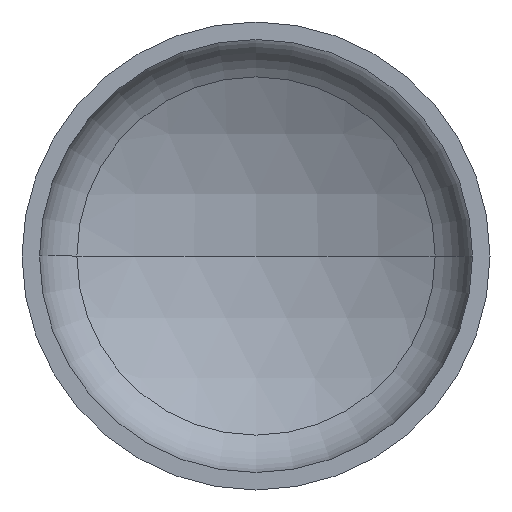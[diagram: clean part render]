
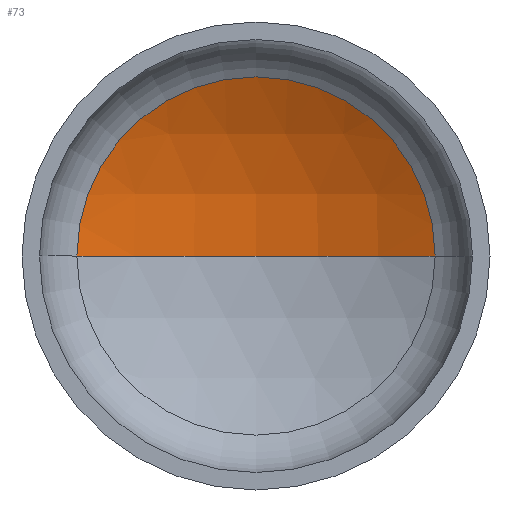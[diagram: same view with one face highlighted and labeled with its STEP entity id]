
A CAD part, front view. The second image highlights one B-rep face of the part: STEP entity #73.
In plain terms, the highlighted spherical face has radius 1200 mm.
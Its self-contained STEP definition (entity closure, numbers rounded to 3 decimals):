
#9 = CARTESIAN_POINT ( 'NONE',  ( 0., 468.176, 0. ) ) ;
#19 = EDGE_LOOP ( 'NONE', ( #125, #148, #103 ) ) ;
#33 = AXIS2_PLACEMENT_3D ( 'NONE', #250, #248, #173 ) ;
#38 = AXIS2_PLACEMENT_3D ( 'NONE', #208, #225, #222 ) ;
#42 = AXIS2_PLACEMENT_3D ( 'NONE', #262, #280, #276 ) ;
#60 = AXIS2_PLACEMENT_3D ( 'NONE', #288, #233, #240 ) ;
#68 = SPHERICAL_SURFACE ( 'NONE', #60, 1200. ) ;
#73 = ADVANCED_FACE ( 'NONE', ( #195 ), #68, .F. ) ;
#86 = VERTEX_POINT ( 'NONE', #336 ) ;
#103 = ORIENTED_EDGE ( 'NONE', *, *, #181, .T. ) ;
#125 = ORIENTED_EDGE ( 'NONE', *, *, #199, .F. ) ;
#135 = VERTEX_POINT ( 'NONE', #220 ) ;
#148 = ORIENTED_EDGE ( 'NONE', *, *, #189, .T. ) ;
#161 = CIRCLE ( 'NONE', #33, 1200. ) ;
#169 = VERTEX_POINT ( 'NONE', #9 ) ;
#173 = DIRECTION ( 'NONE',  ( 1., 0., 0. ) ) ;
#181 = EDGE_CURVE ( 'NONE', #86, #135, #351, .T. ) ;
#189 = EDGE_CURVE ( 'NONE', #169, #86, #407, .T. ) ;
#195 = FACE_OUTER_BOUND ( 'NONE', #19, .T. ) ;
#199 = EDGE_CURVE ( 'NONE', #169, #135, #161, .T. ) ;
#208 = CARTESIAN_POINT ( 'NONE',  ( 0., 321.979, 0. ) ) ;
#220 = CARTESIAN_POINT ( 'NONE',  ( -574.021, 321.979, 0. ) ) ;
#222 = DIRECTION ( 'NONE',  ( 1., 0., 0. ) ) ;
#225 = DIRECTION ( 'NONE',  ( 0., -1., 0. ) ) ;
#233 = DIRECTION ( 'NONE',  ( 0., 0., -1. ) ) ;
#240 = DIRECTION ( 'NONE',  ( -1., 0., 0. ) ) ;
#248 = DIRECTION ( 'NONE',  ( 0., 0., 1. ) ) ;
#250 = CARTESIAN_POINT ( 'NONE',  ( 0., -731.824, 0. ) ) ;
#262 = CARTESIAN_POINT ( 'NONE',  ( 0., -731.824, 0. ) ) ;
#276 = DIRECTION ( 'NONE',  ( -1., 0., 0. ) ) ;
#280 = DIRECTION ( 'NONE',  ( 0., 0., -1. ) ) ;
#288 = CARTESIAN_POINT ( 'NONE',  ( 0., -731.824, 0. ) ) ;
#336 = CARTESIAN_POINT ( 'NONE',  ( 574.021, 321.979, 0. ) ) ;
#351 = CIRCLE ( 'NONE', #38, 574.021 ) ;
#407 = CIRCLE ( 'NONE', #42, 1200. ) ;
